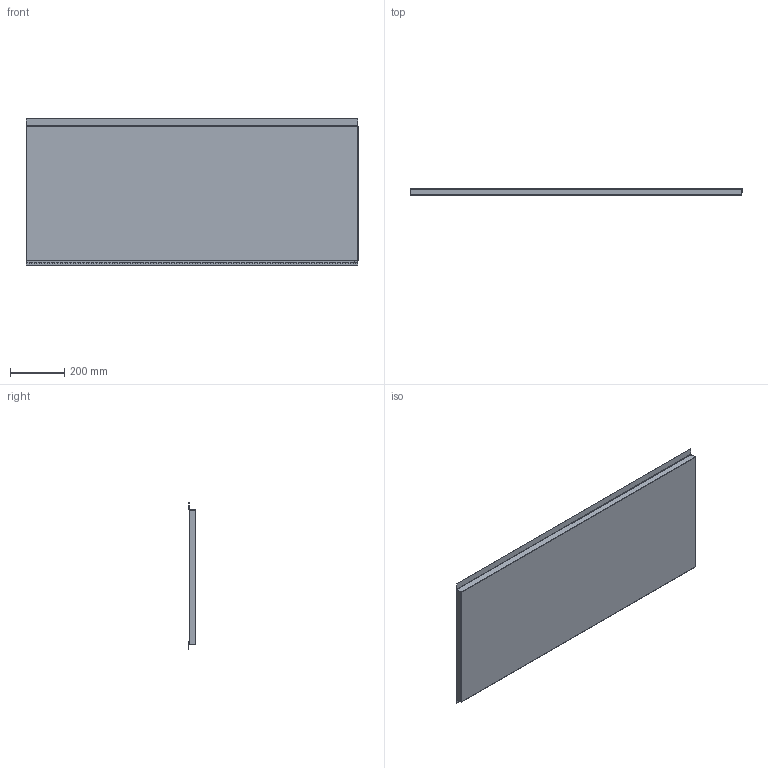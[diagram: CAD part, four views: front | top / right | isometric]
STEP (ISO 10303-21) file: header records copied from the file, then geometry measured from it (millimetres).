
FILE_DESCRIPTION (( 'STEP AP203' ), '1' );
FILE_NAME ('SPPG24.20X48.STEP', '2020-10-29T14:15:59', ( '' ), ( '' ), 'SwSTEP 2.0', 'SolidWorks 2018', '' );
FILE_SCHEMA (( 'CONFIG_CONTROL_DESIGN' ));
Length unit declared in the file: inch
Products named in the file (5): SPPG24.20X48 INSULATION; SPPG24.20X48
Assembly tree (2 placements, depth 2):
  SPPG24.20X48
  SPPG24.20X48 INSULATION
  SPPG24.20X48
    SPPG24.20X48
    SPPG24.20X48 INSULATION
Bounding box: 1219.2 x 25.63 x 537.16 mm (x, y, z)
Volume: 13744067.2 mm3; surface area: 2797556.3 mm2
Topology: 2 solids, 2 shells, 310 faces, 1614 edges, 1306 vertices
Faces by surface type: bspline 256, plane 34, cylinder 20
Entity records: 36678 total; most frequent: CARTESIAN_POINT 23027, ORIENTED_EDGE 3228, DIRECTION 2532, EDGE_CURVE 1614, VERTEX_POINT 1306, AXIS2_PLACEMENT_3D 866, CIRCLE 806, VECTOR 800
